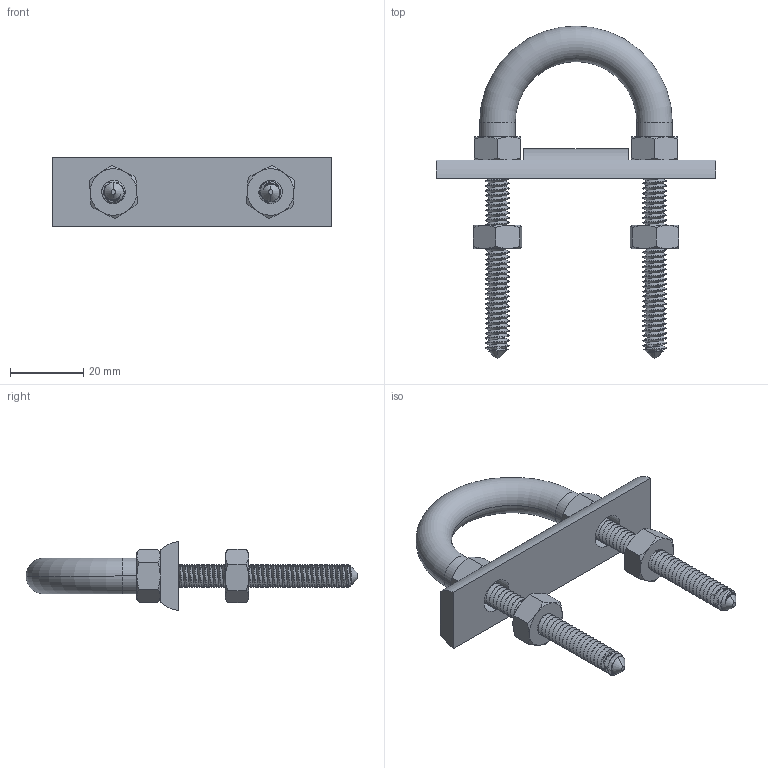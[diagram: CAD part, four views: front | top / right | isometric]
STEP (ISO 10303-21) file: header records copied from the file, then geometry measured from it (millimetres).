
FILE_DESCRIPTION (( 'STEP AP214' ), '1' );
FILE_NAME ('NUB1458.STEP', '2022-04-04T15:38:16', ( '' ), ( '' ), 'SwSTEP 2.0', 'SolidWorks 2021', '' );
FILE_SCHEMA (( 'AUTOMOTIVE_DESIGN' ));
Length unit declared in the file: inch
Products named in the file (4): UBT0985_UBT1-0.5-0.25-20_XL [NUB1458]; ROD0632_IR01-0.5XL [ROD0632]; FAS0044; NUB1458
Assembly tree (6 placements, depth 2):
  NUB1458
    FAS0044  x4
    UBT0985_UBT1-0.5-0.25-20_XL [NUB1458]
    ROD0632_IR01-0.5XL [ROD0632]
Bounding box: 76.2 x 90.58 x 18.88 mm (x, y, z)
Volume: 18270.6 mm3; surface area: 15383.2 mm2
Topology: 7 solids, 7 shells, 327 faces, 871 edges, 558 vertices
Faces by surface type: cylinder 202, cone 70, plane 45, torus 6, bspline 4
Entity records: 17112 total; most frequent: CARTESIAN_POINT 11527, ORIENTED_EDGE 1358, DIRECTION 867, EDGE_CURVE 679, VERTEX_POINT 444, AXIS2_PLACEMENT_3D 322, EDGE_LOOP 251, ADVANCED_FACE 243
